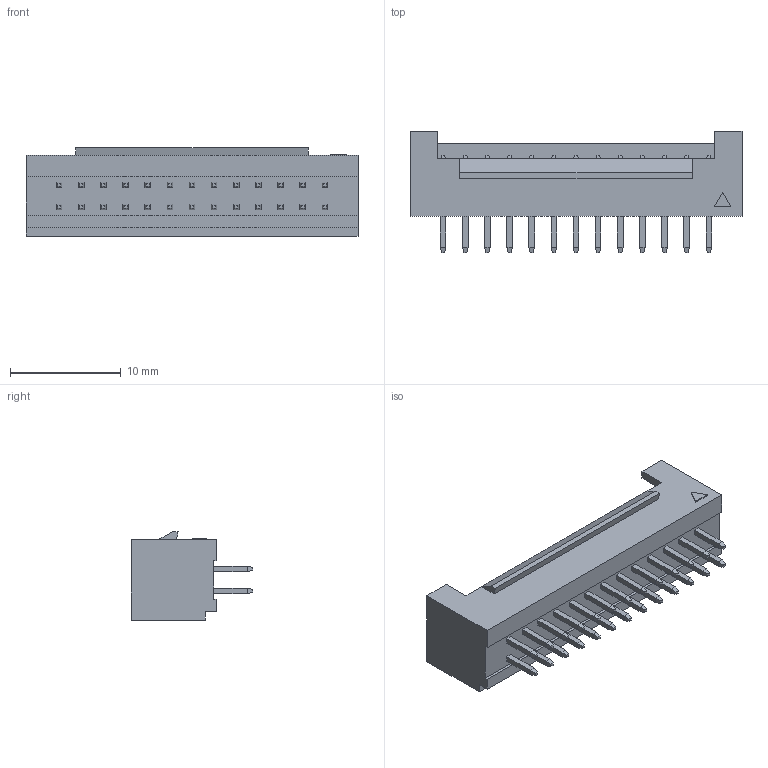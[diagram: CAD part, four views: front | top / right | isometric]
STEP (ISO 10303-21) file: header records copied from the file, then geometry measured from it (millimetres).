
FILE_DESCRIPTION (( 'STEP AP214' ), '1' );
FILE_NAME ('HC-PHB-2X13AC-05（2.00 双排 直针 带导槽-HCTL）.STEP', '2024-12-30T06:22:44', ( '' ), ( '' ), 'SwSTEP 2.0', 'SolidWorks 2022', '' );
FILE_SCHEMA (( 'AUTOMOTIVE_DESIGN' ));
Length unit declared in the file: millimetre
Products named in the file (1): HC-PHB-2X13AC-05（2.00 双排 直针 带导槽-HCTL）
Bounding box: 30 x 11 x 8 mm (x, y, z)
Volume: 768.1 mm3; surface area: 1577.7 mm2
Topology: 1 solids, 1 shells, 511 faces, 1158 edges, 702 vertices
Faces by surface type: plane 511
Entity records: 14219 total; most frequent: CARTESIAN_POINT 2372, ORIENTED_EDGE 2316, DIRECTION 2182, EDGE_CURVE 1158, LINE 1158, VECTOR 1158, VERTEX_POINT 702, EDGE_LOOP 564
